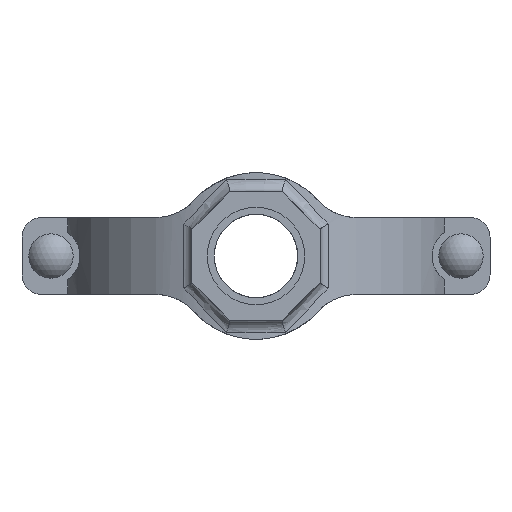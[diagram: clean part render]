
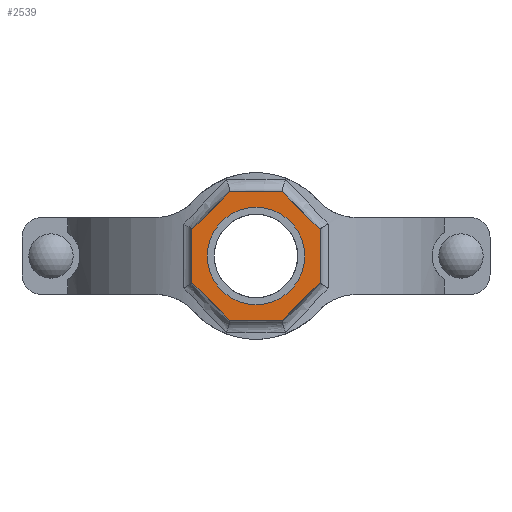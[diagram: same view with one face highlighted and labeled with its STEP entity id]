
A CAD part, front view. The second image highlights one B-rep face of the part: STEP entity #2539.
In plain terms, the highlighted planar face has unit normal (0, -1, 0) as drawn and (0, 1, 0) by its records, which use the part's own axes.
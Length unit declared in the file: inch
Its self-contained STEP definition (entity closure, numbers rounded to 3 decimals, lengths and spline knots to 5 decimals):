
#186=FACE_BOUND('',#459,.T.);
#307=FACE_OUTER_BOUND('',#458,.T.);
#458=EDGE_LOOP('',(#2138,#2139,#2140,#2141,#2142,#2143,#2144,#2145));
#459=EDGE_LOOP('',(#2146));
#594=LINE('',#4693,#780);
#597=LINE('',#4698,#783);
#599=LINE('',#4702,#785);
#601=LINE('',#4706,#787);
#641=LINE('',#5163,#827);
#643=LINE('',#5167,#829);
#645=LINE('',#5171,#831);
#647=LINE('',#5174,#833);
#780=VECTOR('',#3278,0.3937);
#783=VECTOR('',#3283,0.3937);
#785=VECTOR('',#3287,0.3937);
#787=VECTOR('',#3291,0.3937);
#827=VECTOR('',#3427,0.3937);
#829=VECTOR('',#3431,0.3937);
#831=VECTOR('',#3435,0.3937);
#833=VECTOR('',#3439,0.3937);
#919=CIRCLE('',#2802,0.95);
#1097=VERTEX_POINT('',#4690);
#1098=VERTEX_POINT('',#4692);
#1099=VERTEX_POINT('',#4696);
#1100=VERTEX_POINT('',#4700);
#1101=VERTEX_POINT('',#4704);
#1136=VERTEX_POINT('',#5008);
#1160=VERTEX_POINT('',#5162);
#1161=VERTEX_POINT('',#5166);
#1162=VERTEX_POINT('',#5170);
#1408=EDGE_CURVE('',#1098,#1097,#594,.T.);
#1411=EDGE_CURVE('',#1097,#1099,#597,.T.);
#1413=EDGE_CURVE('',#1099,#1100,#599,.T.);
#1415=EDGE_CURVE('',#1100,#1101,#601,.T.);
#1461=EDGE_CURVE('',#1136,#1136,#919,.T.);
#1495=EDGE_CURVE('',#1160,#1098,#641,.T.);
#1497=EDGE_CURVE('',#1161,#1160,#643,.T.);
#1499=EDGE_CURVE('',#1162,#1161,#645,.T.);
#1501=EDGE_CURVE('',#1101,#1162,#647,.T.);
#2138=ORIENTED_EDGE('',*,*,#1501,.T.);
#2139=ORIENTED_EDGE('',*,*,#1499,.T.);
#2140=ORIENTED_EDGE('',*,*,#1497,.T.);
#2141=ORIENTED_EDGE('',*,*,#1495,.T.);
#2142=ORIENTED_EDGE('',*,*,#1408,.T.);
#2143=ORIENTED_EDGE('',*,*,#1411,.T.);
#2144=ORIENTED_EDGE('',*,*,#1413,.T.);
#2145=ORIENTED_EDGE('',*,*,#1415,.T.);
#2146=ORIENTED_EDGE('',*,*,#1461,.T.);
#2280=PLANE('',#2825);
#2539=ADVANCED_FACE('',(#307,#186),#2280,.T.);
#2802=AXIS2_PLACEMENT_3D('',#5009,#3369,#3370);
#2825=AXIS2_PLACEMENT_3D('',#5175,#3440,#3441);
#3278=DIRECTION('',(0.,0.,1.));
#3283=DIRECTION('',(0.707,0.,0.707));
#3287=DIRECTION('',(1.,0.,0.));
#3291=DIRECTION('',(0.707,0.,-0.707));
#3369=DIRECTION('center_axis',(0.,-1.,0.));
#3370=DIRECTION('ref_axis',(-1.,0.,0.));
#3427=DIRECTION('',(-0.707,0.,0.707));
#3431=DIRECTION('',(-1.,0.,0.));
#3435=DIRECTION('',(-0.707,0.,-0.707));
#3439=DIRECTION('',(0.,0.,-1.));
#3440=DIRECTION('center_axis',(0.,1.,0.));
#3441=DIRECTION('ref_axis',(0.,0.,1.));
#4690=CARTESIAN_POINT('',(-1.25,5.13,0.51777));
#4692=CARTESIAN_POINT('',(-1.25,5.13,-0.51777));
#4693=CARTESIAN_POINT('',(-1.25,5.13,0.51777));
#4696=CARTESIAN_POINT('',(-0.51777,5.13,1.25));
#4698=CARTESIAN_POINT('',(-0.51777,5.13,1.25));
#4700=CARTESIAN_POINT('',(0.51777,5.13,1.25));
#4702=CARTESIAN_POINT('',(0.51777,5.13,1.25));
#4704=CARTESIAN_POINT('',(1.25,5.13,0.51777));
#4706=CARTESIAN_POINT('',(1.25,5.13,0.51777));
#5008=CARTESIAN_POINT('',(0.95,5.13,0.));
#5009=CARTESIAN_POINT('Origin',(0.,5.13,0.));
#5162=CARTESIAN_POINT('',(-0.51777,5.13,-1.25));
#5163=CARTESIAN_POINT('',(-1.25,5.13,-0.51777));
#5166=CARTESIAN_POINT('',(0.51777,5.13,-1.25));
#5167=CARTESIAN_POINT('',(-0.51777,5.13,-1.25));
#5170=CARTESIAN_POINT('',(1.25,5.13,-0.51777));
#5171=CARTESIAN_POINT('',(0.51777,5.13,-1.25));
#5174=CARTESIAN_POINT('',(1.25,5.13,-0.51777));
#5175=CARTESIAN_POINT('Origin',(0.,5.13,0.));
